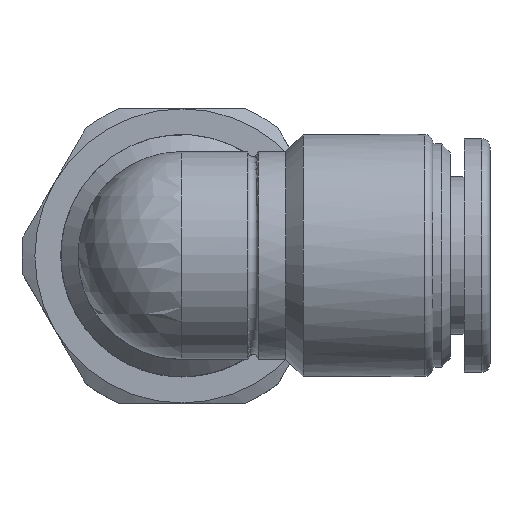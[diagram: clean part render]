
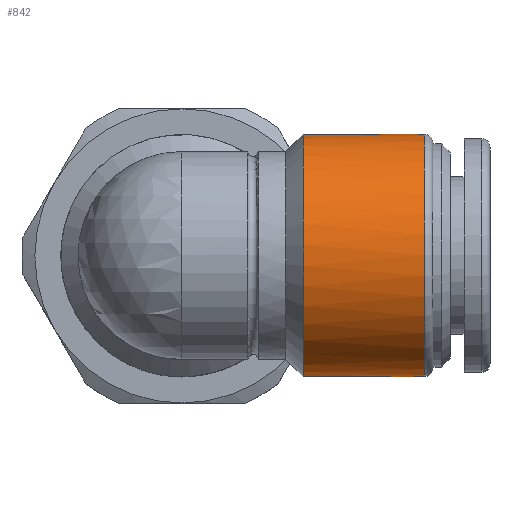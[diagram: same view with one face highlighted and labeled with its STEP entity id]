
A CAD part, top view. The second image highlights one B-rep face of the part: STEP entity #842.
In plain terms, the highlighted cylindrical face has radius 7 mm (diameter 14 mm), a full revolution.
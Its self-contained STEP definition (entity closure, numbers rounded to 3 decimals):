
#63=LINE($,#1365,#91);
#64=LINE($,#1367,#92);
#91=VECTOR($,#1108,2.);
#92=VECTOR($,#1109,2.);
#164=FACE_BOUND($,#260,.T.);
#185=FACE_OUTER_BOUND($,#259,.T.);
#259=EDGE_LOOP($,(#609));
#260=EDGE_LOOP($,(#610,#611,#612,#613,#614));
#314=CIRCLE($,#903,7.);
#315=CIRCLE($,#905,7.);
#327=CIRCLE($,#929,7.);
#328=CIRCLE($,#931,7.);
#374=VERTEX_POINT($,#1315);
#375=VERTEX_POINT($,#1316);
#377=VERTEX_POINT($,#1322);
#390=VERTEX_POINT($,#1361);
#391=VERTEX_POINT($,#1364);
#392=VERTEX_POINT($,#1366);
#456=EDGE_CURVE($,#374,#375,#314,.T.);
#459=EDGE_CURVE($,#377,#374,#315,.T.);
#473=EDGE_CURVE($,#390,#390,#327,.T.);
#474=EDGE_CURVE($,#391,#377,#63,.T.);
#475=EDGE_CURVE($,#375,#392,#64,.T.);
#476=EDGE_CURVE($,#391,#392,#328,.T.);
#609=ORIENTED_EDGE($,*,*,#473,.F.);
#610=ORIENTED_EDGE($,*,*,#474,.T.);
#611=ORIENTED_EDGE($,*,*,#459,.T.);
#612=ORIENTED_EDGE($,*,*,#456,.T.);
#613=ORIENTED_EDGE($,*,*,#475,.T.);
#614=ORIENTED_EDGE($,*,*,#476,.F.);
#809=CYLINDRICAL_SURFACE($,#930,7.);
#842=ADVANCED_FACE($,(#185,#164),#809,.T.);
#903=AXIS2_PLACEMENT_3D($,#1317,#1048,#1049);
#905=AXIS2_PLACEMENT_3D($,#1323,#1054,#1055);
#929=AXIS2_PLACEMENT_3D($,#1362,#1104,#1105);
#930=AXIS2_PLACEMENT_3D($,#1363,#1106,#1107);
#931=AXIS2_PLACEMENT_3D($,#1368,#1110,#1111);
#1048=DIRECTION('center_axis',(1.,0.,0.));
#1049=DIRECTION('ref_axis',(0.,0.,1.));
#1054=DIRECTION('center_axis',(1.,0.,0.));
#1055=DIRECTION('ref_axis',(0.,0.,1.));
#1104=DIRECTION('center_axis',(1.,0.,0.));
#1105=DIRECTION('ref_axis',(0.,0.,1.));
#1106=DIRECTION('center_axis',(1.,0.,0.));
#1107=DIRECTION('ref_axis',(0.,0.,1.));
#1108=DIRECTION($,(1.,0.,0.));
#1109=DIRECTION($,(-1.,0.,0.));
#1110=DIRECTION('center_axis',(-1.,0.,0.));
#1111=DIRECTION('ref_axis',(0.,0.,1.));
#1315=CARTESIAN_POINT('',(9.,0.,-7.));
#1316=CARTESIAN_POINT('',(9.,0.75,-6.96));
#1317=CARTESIAN_POINT('Origin',(9.,0.,0.));
#1322=CARTESIAN_POINT('',(9.,-0.75,-6.96));
#1323=CARTESIAN_POINT('Origin',(9.,0.,0.));
#1361=CARTESIAN_POINT('',(14.,0.,-7.));
#1362=CARTESIAN_POINT('Origin',(14.,0.,0.));
#1363=CARTESIAN_POINT('Origin',(6.,0.,0.));
#1364=CARTESIAN_POINT('',(7.,-0.75,-6.96));
#1365=CARTESIAN_POINT($,(6.,-0.75,-6.96));
#1366=CARTESIAN_POINT('',(7.,0.75,-6.96));
#1367=CARTESIAN_POINT($,(6.,0.75,-6.96));
#1368=CARTESIAN_POINT('Origin',(7.,0.,0.));
